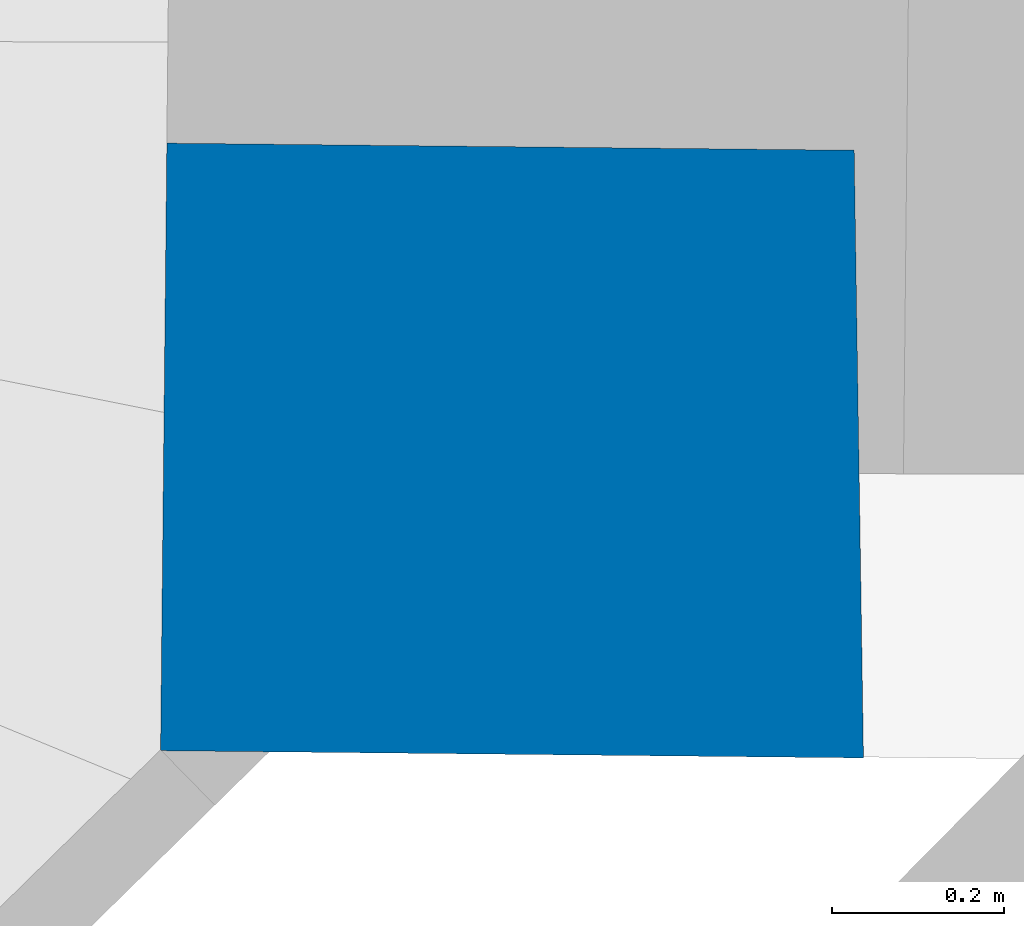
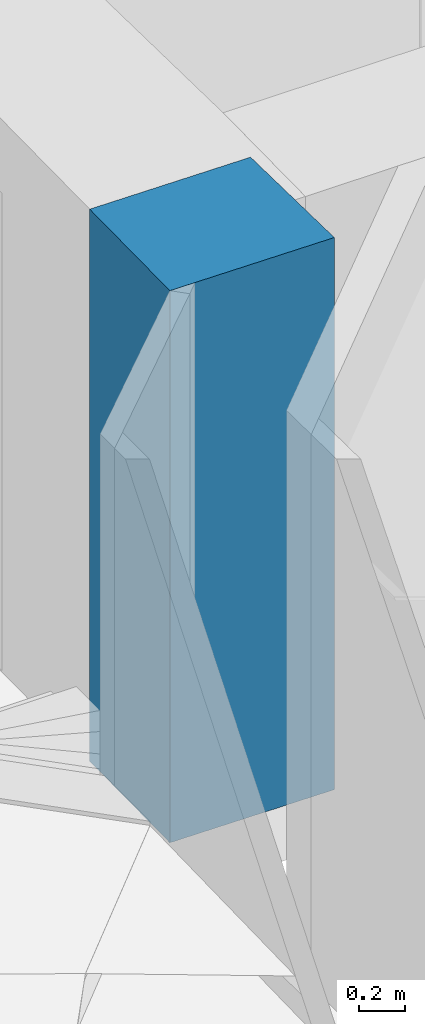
# One storey, part 90 of 133: 1 wall.
"""IFC2X3 building model written with IfcOpenShell, lengths in centimetres."""

from ifc_helpers import new_model, entity, si_unit, converted_unit, direction, frame, origin, origin_with_axes, place, context, subcontext, project, spatial, faceted_brep, material, layer, layer_set, layer_usage, type_object, element, save


model = new_model("IFC2X3")

# Units and contexts
model_context = context("Model", 3, precision=0.0001, world=origin(), true_north=direction((0.225632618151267, 0.974212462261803, 0.0)))
body_context = subcontext(model_context, "Body", "Model", "MODEL_VIEW")
ifc_project = project(units=[si_unit("LENGTHUNIT", "METRE", prefix="CENTI"), si_unit("AREAUNIT", "SQUARE_METRE", prefix="CENTI"), si_unit("VOLUMEUNIT", "CUBIC_METRE", prefix="CENTI"), converted_unit("PLANEANGLEUNIT", "DEGREE", entity("IfcRatioMeasure", 0.0174532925), si_unit("PLANEANGLEUNIT", "RADIAN"), dimensions=[0, 0, 0, 0, 0, 0, 0])], contexts=[model_context])

# Site, building, storey
site_placement = place(None, origin_with_axes())
site = spatial("IfcSite", under=ifc_project, at=site_placement, Name="Default Site", CompositionType="ELEMENT")
building_placement = place(site_placement, origin_with_axes())
building = spatial("IfcBuilding", under=site, at=building_placement, Name="Default Building", CompositionType="ELEMENT")
storey_placement = place(building_placement, frame((0.0, 0.0, -291.400371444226), z_axis=(0.0, 0.0, 1.0), x_axis=(1.0, 0.0, 0.0)))
storey = spatial("IfcBuildingStorey", under=building, at=storey_placement, Name="Rez-de-Jardin", CompositionType="ELEMENT", Elevation=-291.400371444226)

# Wall
ifc_material = material(Name="<aucun>")
ifc_layer = layer(ifc_material, 74.0)
ifc_layer_set = layer_set([ifc_layer], Name="default")
ifc_layer_usage = layer_usage(ifc_layer_set, "AXIS2", "POSITIVE", -37.0)
wall_type = type_object("IfcWallType", Name="default 740", PredefinedType="NOTDEFINED", material=ifc_layer_set)
wall_placement = place(storey_placement, frame((-1152.63310388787, -634.313230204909, -1.94511073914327e-11), z_axis=(0.0, 0.0, 1.0), x_axis=(0.0103423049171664, 0.999946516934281, 0.0)))
element("IfcWall", 1, at=wall_placement, inside=storey, type_object=wall_type, material=ifc_layer_usage, Name="Enveloppe 71290", context=body_context, shape_type="Brep", body=[
    faceted_brep([(-2.23852949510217e-05, 36.9999553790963, 291.413221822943), (70.5581499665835, 36.9999554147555, 291.413221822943), (70.5581499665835, 36.9999554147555, 1.03831488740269e-05), (-2.23852949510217e-05, 36.9999553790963, 1.03831488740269e-05), (2.81779044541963e-08, -44.6273920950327, 1.03831488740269e-05), (70.5581456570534, -42.8266546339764, 1.03831488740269e-05), (70.5581456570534, -42.8266546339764, 291.413221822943), (2.81779044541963e-08, -44.6273920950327, 291.413221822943), (-2.23440415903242e-05, -44.6273920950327, 1.03831488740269e-05), (-2.23440415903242e-05, -44.6273920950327, 291.413221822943), (70.5581499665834, 37.0000332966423, 291.413221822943), (70.5581500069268, -42.8266810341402, 291.413221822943), (70.5581500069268, -42.8266810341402, 1.03831488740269e-05), (70.5581499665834, 37.0000332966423, 1.03831488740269e-05), (70.5581463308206, -42.8266810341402, 291.413221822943), (70.5581463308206, -42.8266810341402, 1.03831488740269e-05)], [[[0, 1, 2, 3]], [[4, 5, 6, 7]], [[3, 8, 9, 0]], [[10, 11, 12, 13]], [[7, 14, 10, 0]], [[3, 13, 15, 4]]]),
])

save(model, "model.ifc")
